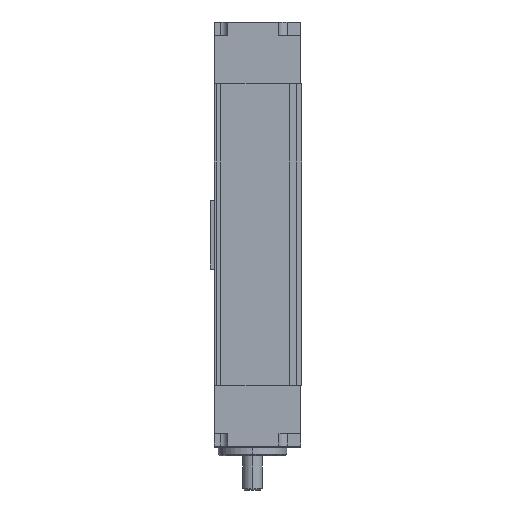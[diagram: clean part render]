
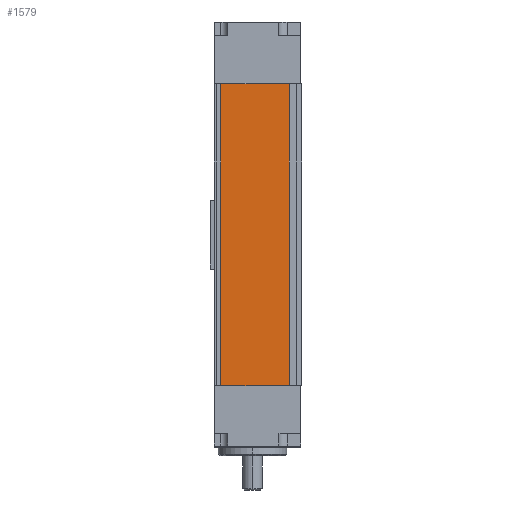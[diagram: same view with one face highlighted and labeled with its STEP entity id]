
A CAD part, left-side view. The second image highlights one B-rep face of the part: STEP entity #1579.
In plain terms, the highlighted planar face has unit normal (-1, 0, 0).
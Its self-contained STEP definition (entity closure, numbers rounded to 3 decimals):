
#981 = EDGE_CURVE ( 'NONE', #1149, #1091, #3249, .T. ) ;
#1091 = VERTEX_POINT ( 'NONE', #3392 ) ;
#1149 = VERTEX_POINT ( 'NONE', #3469 ) ;
#1187 = ORIENTED_EDGE ( 'NONE', *, *, #1558, .T. ) ;
#1384 = VERTEX_POINT ( 'NONE', #3887 ) ;
#1403 = EDGE_CURVE ( 'NONE', #1406, #1384, #3910, .T. ) ;
#1406 = VERTEX_POINT ( 'NONE', #3913 ) ;
#1552 = ORIENTED_EDGE ( 'NONE', *, *, #1403, .T. ) ;
#1558 = EDGE_CURVE ( 'NONE', #1149, #1406, #4171, .T. ) ;
#1564 = EDGE_LOOP ( 'NONE', ( #1572, #1588, #1187, #1552 ) ) ;
#1566 = EDGE_CURVE ( 'NONE', #1091, #1384, #4194, .T. ) ;
#1572 = ORIENTED_EDGE ( 'NONE', *, *, #1566, .F. ) ;
#1579 = ADVANCED_FACE ( 'NONE', ( #4243 ), #4236, .F. ) ;
#1588 = ORIENTED_EDGE ( 'NONE', *, *, #981, .F. ) ;
#3246 = DIRECTION ( 'NONE',  ( 0., -1., 0. ) ) ;
#3247 = VECTOR ( 'NONE', #3246, 1000. ) ;
#3248 = CARTESIAN_POINT ( 'NONE',  ( -75., -36., 220. ) ) ;
#3249 = LINE ( 'NONE', #3248, #3247 ) ;
#3392 = CARTESIAN_POINT ( 'NONE',  ( -75., -26.9, 220. ) ) ;
#3469 = CARTESIAN_POINT ( 'NONE',  ( -75., 23.2, 220. ) ) ;
#3887 = CARTESIAN_POINT ( 'NONE',  ( -75., -26.9, 0. ) ) ;
#3908 = VECTOR ( 'NONE', #3967, 1000. ) ;
#3909 = CARTESIAN_POINT ( 'NONE',  ( -75., -36., 0. ) ) ;
#3910 = LINE ( 'NONE', #3909, #3908 ) ;
#3913 = CARTESIAN_POINT ( 'NONE',  ( -75., 23.2, 0. ) ) ;
#3967 = DIRECTION ( 'NONE',  ( 0., -1., 0. ) ) ;
#4171 = LINE ( 'NONE', #4220, #4219 ) ;
#4193 = CARTESIAN_POINT ( 'NONE',  ( -75., -26.9, 220. ) ) ;
#4194 = LINE ( 'NONE', #4193, #4257 ) ;
#4211 = DIRECTION ( 'NONE',  ( 0., 0., -1. ) ) ;
#4219 = VECTOR ( 'NONE', #4211, 1000. ) ;
#4220 = CARTESIAN_POINT ( 'NONE',  ( -75., 23.2, 220. ) ) ;
#4233 = CARTESIAN_POINT ( 'NONE',  ( -75., -36., 220. ) ) ;
#4236 = PLANE ( 'NONE',  #4238 ) ;
#4238 = AXIS2_PLACEMENT_3D ( 'NONE', #4233, #4253, #4290 ) ;
#4243 = FACE_OUTER_BOUND ( 'NONE', #1564, .T. ) ;
#4253 = DIRECTION ( 'NONE',  ( 1., 0., 0. ) ) ;
#4256 = DIRECTION ( 'NONE',  ( 0., 0., -1. ) ) ;
#4257 = VECTOR ( 'NONE', #4256, 1000. ) ;
#4290 = DIRECTION ( 'NONE',  ( 0., 0., -1. ) ) ;
